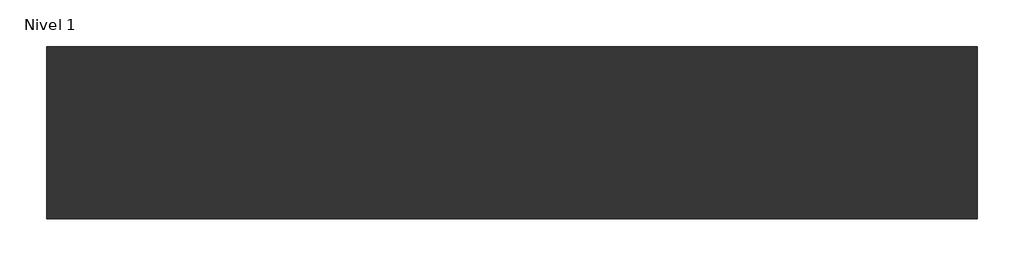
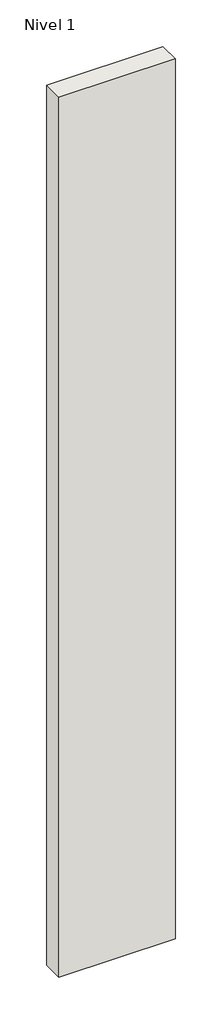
# One storey: 1 wall.
"""IFC4 building model written with IfcOpenShell, lengths in millimetres."""

from ifc_helpers import new_model, si_unit, origin, origin_with_axes, place, context, project, spatial, polyline, outline, extrude, element, save

model = new_model("IFC4")

# Units and contexts
model_context = context("Model", 3, world=origin())
ifc_project = project(units=[si_unit("LENGTHUNIT", "METRE", prefix="MILLI")], contexts=[model_context])

# Site, building, storey
site = spatial("IfcSite", under=ifc_project)
building = spatial("IfcBuilding", under=site)
storey = spatial("IfcBuildingStorey", under=building, Name="Nivel 1", Elevation=0.0)

# Wall
placement = place(None, origin())
element("IfcWall", 1, ObjectType="Trasdosado placa simple. PANEL LR - Sistema D05", at=placement, inside=storey, context=model_context, shape_type="SweptSolid", body=[
    extrude(outline(polyline([(-3436.220018, -2906.6024758), (-4436.220018, -2906.6024758), (-4436.220018, -2721.6024758), (-3436.220018, -2721.6024758), (-3436.220018, -2906.6024758)])), origin_with_axes(), (0.0, 0.0, 1.0), 8000.0),
])

save(model, "model.ifc")
